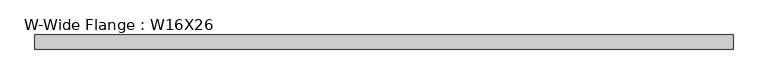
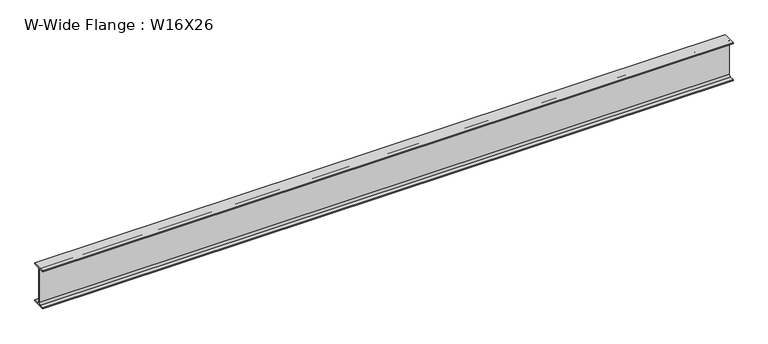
"""IFC4 building model written with IfcOpenShell, lengths in millimetres: beam geometry, W-Wide Flange : W16X26."""

from ifc_helpers import new_model, si_unit, point, frame, frame_2d, origin, place, context, project, spatial, polyline, circle_curve, trimmed, segment, composite_curve, outline, extrude, source, transform, mapped, element, save


def w_wide_flange_w16x26_3e8c792e(model_context):
    return source(origin(), model_context, "Body", "SweptSolid", [
        extrude(outline(composite_curve([segment(polyline([(69.85, -190.5496094), (69.85, -199.2808594), (-69.85, -199.2808594), (-69.85, -190.5496094), (-21.43125, -190.5496094)]), True, "CONTINUOUS"), segment(trimmed(circle_curve(frame_2d((-21.43125, -172.2933594)), 18.25625), [point((-21.43125, -190.5496094))], [point((-3.175, -172.2933594))], True, "CARTESIAN"), True, "CONTINUOUS"), segment(polyline([(-3.175, -172.2933594), (-3.175, 172.2933594)]), True, "CONTINUOUS"), segment(trimmed(circle_curve(frame_2d((-21.43125, 172.2933594)), 18.25625), [point((-3.175, 172.2933594))], [point((-21.43125, 190.5496094))], True, "CARTESIAN"), True, "CONTINUOUS"), segment(polyline([(-21.43125, 190.5496094), (-69.85, 190.5496094), (-69.85, 199.2808594), (69.85, 199.2808594), (69.85, 190.5496094), (21.43125, 190.5496094)]), True, "CONTINUOUS"), segment(trimmed(circle_curve(frame_2d((21.43125, 172.2933594)), 18.25625), [point((21.43125, 190.5496094))], [point((3.175, 172.2933594))], True, "CARTESIAN"), True, "CONTINUOUS"), segment(polyline([(3.175, 172.2933594), (3.175, -172.2933594)]), True, "CONTINUOUS"), segment(trimmed(circle_curve(frame_2d((21.43125, -172.2933594)), 18.25625), [point((3.175, -172.2933594))], [point((21.43125, -190.5496094))], True, "CARTESIAN"), True, "CONTINUOUS"), segment(polyline([(21.43125, -190.5496094), (69.85, -190.5496094)]), True, "CONTINUOUS")], self_intersect=False)), frame((-3431.9104167, 0.0, 0.0), z_axis=(1.0, 0.0, 0.0), x_axis=(0.0, 1.0, 0.0)), (0.0, 0.0, 1.0), 6883.4),
    ])


if __name__ == "__main__":
    model = new_model("IFC4")
    model_context = context("Model", 3, world=origin())
    ifc_project = project(units=[si_unit("LENGTHUNIT", "METRE", prefix="MILLI")], contexts=[model_context])
    site = spatial("IfcSite", under=ifc_project)
    building = spatial("IfcBuilding", under=site)
    placement = place(None, origin())
    w_wide_flange_w16x26_shape = w_wide_flange_w16x26_3e8c792e(model_context)
    element("IfcBeam", 1, ObjectType="W-Wide Flange : W16X26", at=placement, inside=building, context=model_context, shape_type="MappedRepresentation", body=[
        mapped(w_wide_flange_w16x26_shape, transform((0.0, 0.0, 0.0), x_axis=(1.0, 0.0, 0.0), y_axis=(0.0, 1.0, 0.0), z_axis=(0.0, 0.0, 1.0))),
    ])
    save(model, "model.ifc")
